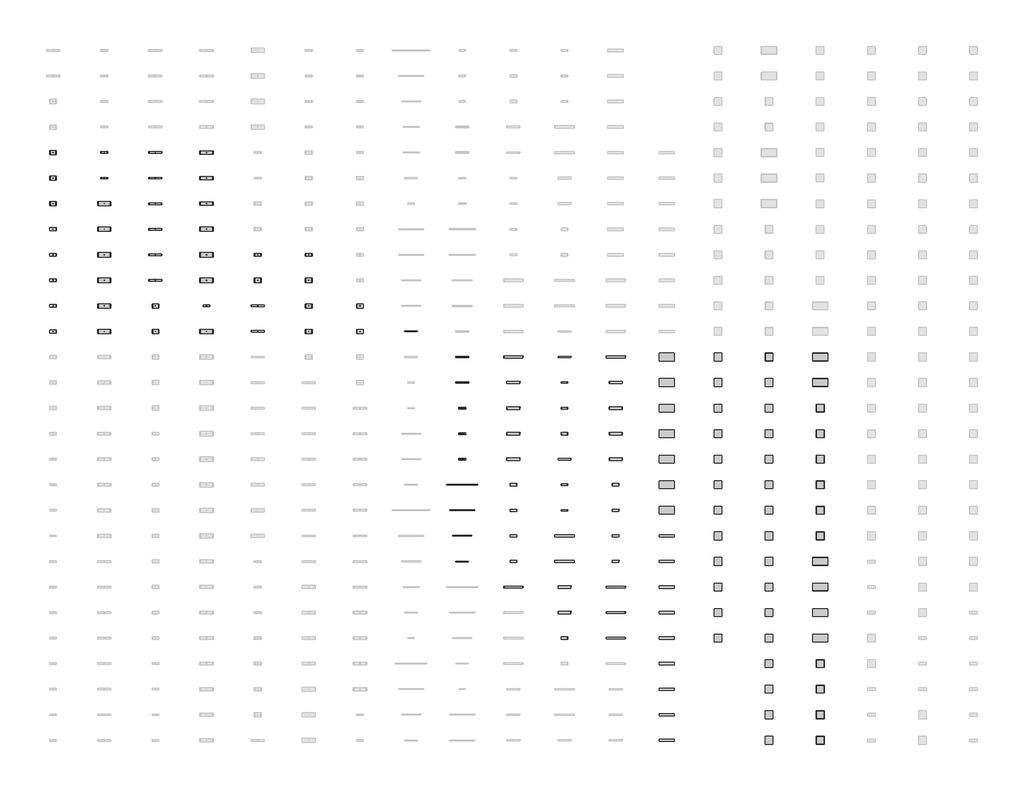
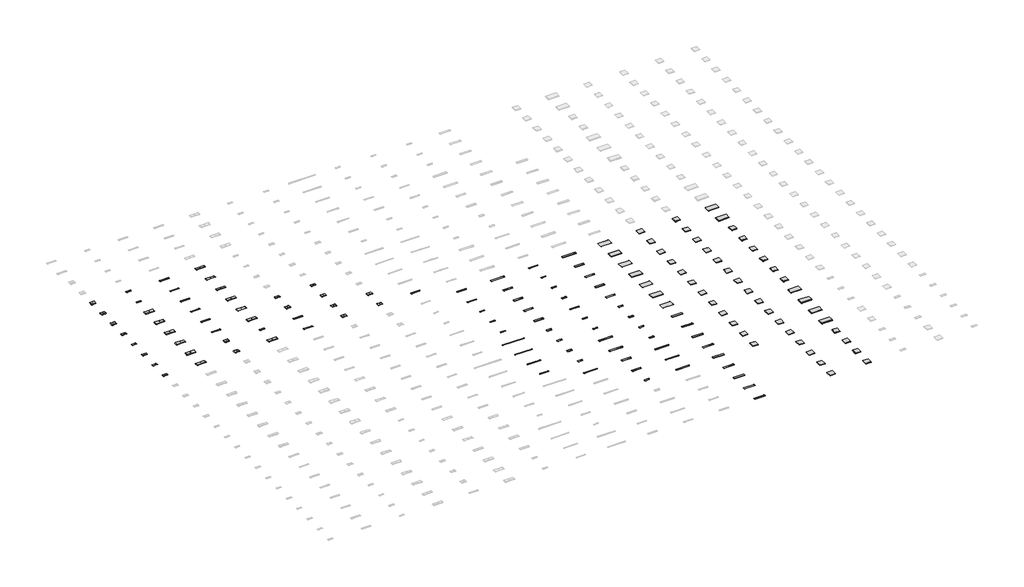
# One storey, part 2 of 7: 146 light fixtures.
"""IFC4 building model written with IfcOpenShell, lengths in millimetres."""

from ifc_helpers import new_model, si_unit, origin, place, context, project, spatial, transform, mapped, element, save
from components import light_fixture_92eabb3a, light_fixture_25df60ce, light_fixture_055937f4, light_fixture_121728c5, light_fixture_e398c37d, light_fixture_b94f0c3b, light_fixture_c778b539, light_fixture_ddc3e724, light_fixture_fd2b8f3f, light_fixture_c53e545b, light_fixture_f0c51d83, light_fixture_dffcc7fd, light_fixture_4d4a466d, light_fixture_e242d498, light_fixture_e2a95042, light_fixture_01780e7a, light_fixture_13f974ab, light_fixture_4871c609, light_fixture_df0576ea, light_fixture_4e9e6f2b, light_fixture_70e44551, light_fixture_14155fe5, light_fixture_35556cd1, light_fixture_7213bc0d, light_fixture_fca84b41, light_fixture_ab52292d, light_fixture_a868d494, light_fixture_4e222f7b, light_fixture_24b21b9c, light_fixture_98d0d098, light_fixture_b73f29e1

model = new_model("IFC4")

# Units and contexts
model_context = context("Model", 3, world=origin())
ifc_project = project(units=[si_unit("LENGTHUNIT", "METRE", prefix="MILLI")], contexts=[model_context])

# Site, building, storey
site = spatial("IfcSite", under=ifc_project)
building = spatial("IfcBuilding", under=site)
storey = spatial("IfcBuildingStorey", under=building, Name="Уровень 1", Elevation=0.0)

# Light fixtures
placement = place(None, origin())
light_fixture_shape = light_fixture_92eabb3a(model_context)
element("IfcLightFixture", 1, ObjectType="GENILED_Светильник светодиодный_Line Alum Standart : Line Alum Standart 980x50x50 40Вт Опал", at=placement, inside=storey, context=model_context, shape_type="MappedRepresentation", body=[
    mapped(light_fixture_shape, transform((28000.0, 32000.0, 0.0), x_axis=(1.0, 0.0, 0.0), y_axis=(0.0, 1.0, 0.0), z_axis=(0.0, 0.0, 1.0))),
])
light_fixture_2_shape = light_fixture_25df60ce(model_context)
element("IfcLightFixture", 2, ObjectType="GENILED_Светильник светодиодный_Line Standart : Line Standart 980x40x50 20Вт 90Ra Опал", at=placement, inside=storey, context=model_context, shape_type="MappedRepresentation", body=[
    mapped(light_fixture_2_shape, transform((32000.0, 14000.0, 0.0), x_axis=(1.0, 0.0, 0.0), y_axis=(0.0, 1.0, 0.0), z_axis=(0.0, 0.0, 1.0))),
])
light_fixture_3_shape = light_fixture_055937f4(model_context)
element("IfcLightFixture", 3, ObjectType="GENILED_Светильник светодиодный_Line Standart : Line Standart 1472x40x50 30Вт 90Ra Опал", at=placement, inside=storey, context=model_context, shape_type="MappedRepresentation", body=[
    mapped(light_fixture_3_shape, transform((32000.0, 16000.0, 0.0), x_axis=(1.0, 0.0, 0.0), y_axis=(0.0, 1.0, 0.0), z_axis=(0.0, 0.0, 1.0))),
])
light_fixture_4_shape = light_fixture_121728c5(model_context)
element("IfcLightFixture", 4, ObjectType="GENILED_Светильник светодиодный_Line Standart : Line Standart 1962x40x50 40Вт 90Ra Опал", at=placement, inside=storey, context=model_context, shape_type="MappedRepresentation", body=[
    mapped(light_fixture_4_shape, transform((32000.0, 18000.0, 0.0), x_axis=(1.0, 0.0, 0.0), y_axis=(0.0, 1.0, 0.0), z_axis=(0.0, 0.0, 1.0))),
])
light_fixture_5_shape = light_fixture_e398c37d(model_context)
element("IfcLightFixture", 5, ObjectType="GENILED_Светильник светодиодный_Line Standart : Line Standart 2450x40x50 50Вт 90Ra Опал", at=placement, inside=storey, context=model_context, shape_type="MappedRepresentation", body=[
    mapped(light_fixture_5_shape, transform((32000.0, 20000.0, 0.0), x_axis=(1.0, 0.0, 0.0), y_axis=(0.0, 1.0, 0.0), z_axis=(0.0, 0.0, 1.0))),
])
light_fixture_6_shape = light_fixture_b94f0c3b(model_context)
element("IfcLightFixture", 6, ObjectType="GENILED_Светильник светодиодный_Retail Advanced : Retail Advanced 535x105x25 20Вт Опал", at=placement, inside=storey, context=model_context, shape_type="MappedRepresentation", body=[
    mapped(light_fixture_6_shape, transform((32000.0, 22000.0, 0.0), x_axis=(1.0, 0.0, 0.0), y_axis=(0.0, 1.0, 0.0), z_axis=(0.0, 0.0, 1.0))),
])
element("IfcLightFixture", 7, ObjectType="GENILED_Светильник светодиодный_Retail Advanced : Retail Advanced 535x105x25 30Вт Опал", at=placement, inside=storey, context=model_context, shape_type="MappedRepresentation", body=[
    mapped(light_fixture_6_shape, transform((32000.0, 24000.0, 0.0), x_axis=(1.0, 0.0, 0.0), y_axis=(0.0, 1.0, 0.0), z_axis=(0.0, 0.0, 1.0))),
])
element("IfcLightFixture", 8, ObjectType="GENILED_Светильник светодиодный_Retail Advanced : Retail Advanced 535x105x25 20Вт Линза Ш", at=placement, inside=storey, context=model_context, shape_type="MappedRepresentation", body=[
    mapped(light_fixture_6_shape, transform((32000.0, 26000.0, 0.0), x_axis=(1.0, 0.0, 0.0), y_axis=(0.0, 1.0, 0.0), z_axis=(0.0, 0.0, 1.0))),
])
light_fixture_7_shape = light_fixture_c778b539(model_context)
element("IfcLightFixture", 9, ObjectType="GENILED_Светильник светодиодный_Retail Advanced : Retail Advanced 1034x105x25 40Вт Опал", at=placement, inside=storey, context=model_context, shape_type="MappedRepresentation", body=[
    mapped(light_fixture_7_shape, transform((32000.0, 28000.0, 0.0), x_axis=(1.0, 0.0, 0.0), y_axis=(0.0, 1.0, 0.0), z_axis=(0.0, 0.0, 1.0))),
])
element("IfcLightFixture", 10, ObjectType="GENILED_Светильник светодиодный_Retail Advanced : Retail Advanced 1034x105x25 60Вт Опал", at=placement, inside=storey, context=model_context, shape_type="MappedRepresentation", body=[
    mapped(light_fixture_7_shape, transform((32000.0, 30000.0, 0.0), x_axis=(1.0, 0.0, 0.0), y_axis=(0.0, 1.0, 0.0), z_axis=(0.0, 0.0, 1.0))),
])
light_fixture_8_shape = light_fixture_ddc3e724(model_context)
element("IfcLightFixture", 11, ObjectType="GENILED_Светильник светодиодный_Titan Advanced : Titan Advanced 1500x100x30 90Вт IP66 Матовое закаленное стекло", at=placement, inside=storey, context=model_context, shape_type="MappedRepresentation", body=[
    mapped(light_fixture_8_shape, transform((36000.0, 12000.0, 0.0), x_axis=(1.0, 0.0, 0.0), y_axis=(0.0, 1.0, 0.0), z_axis=(0.0, 0.0, 1.0))),
])
light_fixture_9_shape = light_fixture_fd2b8f3f(model_context)
element("IfcLightFixture", 12, ObjectType="GENILED_Светильник светодиодный_Titan Advanced : Titan Advanced 500x180x25 40Вт IP66 Опал", at=placement, inside=storey, context=model_context, shape_type="MappedRepresentation", body=[
    mapped(light_fixture_9_shape, transform((36000.0, 14000.0, 0.0), x_axis=(1.0, 0.0, 0.0), y_axis=(0.0, 1.0, 0.0), z_axis=(0.0, 0.0, 1.0))),
])
light_fixture_10_shape = light_fixture_c53e545b(model_context)
element("IfcLightFixture", 13, ObjectType="GENILED_Светильник светодиодный_Titan Advanced : Titan Advanced 500x180x30 40Вт IP66 Матовое закаленное стекло", at=placement, inside=storey, context=model_context, shape_type="MappedRepresentation", body=[
    mapped(light_fixture_10_shape, transform((36000.0, 16000.0, 0.0), x_axis=(1.0, 0.0, 0.0), y_axis=(0.0, 1.0, 0.0), z_axis=(0.0, 0.0, 1.0))),
])
element("IfcLightFixture", 14, ObjectType="GENILED_Светильник светодиодный_Titan Advanced : Titan Advanced 500x180x25 50Вт IP66 Опал", at=placement, inside=storey, context=model_context, shape_type="MappedRepresentation", body=[
    mapped(light_fixture_9_shape, transform((36000.0, 18000.0, 0.0), x_axis=(1.0, 0.0, 0.0), y_axis=(0.0, 1.0, 0.0), z_axis=(0.0, 0.0, 1.0))),
])
element("IfcLightFixture", 15, ObjectType="GENILED_Светильник светодиодный_Titan Advanced : Titan Advanced 500x180x30 50Вт IP66 Матовое закаленное стекло", at=placement, inside=storey, context=model_context, shape_type="MappedRepresentation", body=[
    mapped(light_fixture_10_shape, transform((36000.0, 20000.0, 0.0), x_axis=(1.0, 0.0, 0.0), y_axis=(0.0, 1.0, 0.0), z_axis=(0.0, 0.0, 1.0))),
])
light_fixture_11_shape = light_fixture_f0c51d83(model_context)
element("IfcLightFixture", 16, ObjectType="GENILED_Светильник светодиодный_Titan Advanced : Titan Advanced 1000x180x25 80Вт IP66 Опал", at=placement, inside=storey, context=model_context, shape_type="MappedRepresentation", body=[
    mapped(light_fixture_11_shape, transform((36000.0, 22000.0, 0.0), x_axis=(1.0, 0.0, 0.0), y_axis=(0.0, 1.0, 0.0), z_axis=(0.0, 0.0, 1.0))),
])
light_fixture_12_shape = light_fixture_dffcc7fd(model_context)
element("IfcLightFixture", 17, ObjectType="GENILED_Светильник светодиодный_Titan Advanced : Titan Advanced 1000x180x30 80Вт IP66 Матовое закаленное стекло", at=placement, inside=storey, context=model_context, shape_type="MappedRepresentation", body=[
    mapped(light_fixture_12_shape, transform((36000.0, 24000.0, 0.0), x_axis=(1.0, 0.0, 0.0), y_axis=(0.0, 1.0, 0.0), z_axis=(0.0, 0.0, 1.0))),
])
element("IfcLightFixture", 18, ObjectType="GENILED_Светильник светодиодный_Titan Advanced : Titan Advanced 1000x180x25 100Вт IP66 Опал", at=placement, inside=storey, context=model_context, shape_type="MappedRepresentation", body=[
    mapped(light_fixture_11_shape, transform((36000.0, 26000.0, 0.0), x_axis=(1.0, 0.0, 0.0), y_axis=(0.0, 1.0, 0.0), z_axis=(0.0, 0.0, 1.0))),
])
element("IfcLightFixture", 19, ObjectType="GENILED_Светильник светодиодный_Titan Advanced : Titan Advanced 1000x180x30 100Вт IP66 Матовое закаленное стекло", at=placement, inside=storey, context=model_context, shape_type="MappedRepresentation", body=[
    mapped(light_fixture_12_shape, transform((36000.0, 28000.0, 0.0), x_axis=(1.0, 0.0, 0.0), y_axis=(0.0, 1.0, 0.0), z_axis=(0.0, 0.0, 1.0))),
])
light_fixture_13_shape = light_fixture_4d4a466d(model_context)
element("IfcLightFixture", 20, ObjectType="GENILED_Светильник светодиодный_Titan Advanced : Titan Advanced 1500x180x25 120Вт IP66 Опал", at=placement, inside=storey, context=model_context, shape_type="MappedRepresentation", body=[
    mapped(light_fixture_13_shape, transform((36000.0, 30000.0, 0.0), x_axis=(1.0, 0.0, 0.0), y_axis=(0.0, 1.0, 0.0), z_axis=(0.0, 0.0, 1.0))),
])
element("IfcLightFixture", 21, ObjectType="GENILED_Светильник светодиодный_Titan Inox Advanced : Titan Inox Advanced 500x180x30 50Вт IP66 Матовое закаленное стекло", at=placement, inside=storey, context=model_context, shape_type="MappedRepresentation", body=[
    mapped(light_fixture_10_shape, transform((40000.0, 8000.0, 0.0), x_axis=(1.0, 0.0, 0.0), y_axis=(0.0, 1.0, 0.0), z_axis=(0.0, 0.0, 1.0))),
])
element("IfcLightFixture", 22, ObjectType="GENILED_Светильник светодиодный_Titan Inox Advanced : Titan Inox Advanced 1000x180x30 80Вт IP66 Матовое закаленное стекло", at=placement, inside=storey, context=model_context, shape_type="MappedRepresentation", body=[
    mapped(light_fixture_12_shape, transform((40000.0, 10000.0, 0.0), x_axis=(1.0, 0.0, 0.0), y_axis=(0.0, 1.0, 0.0), z_axis=(0.0, 0.0, 1.0))),
])
element("IfcLightFixture", 23, ObjectType="GENILED_Светильник светодиодный_Titan Inox Advanced : Titan Inox Advanced 1000x180x30 100Вт IP66 Матовое закаленное стекло", at=placement, inside=storey, context=model_context, shape_type="MappedRepresentation", body=[
    mapped(light_fixture_12_shape, transform((40000.0, 12000.0, 0.0), x_axis=(1.0, 0.0, 0.0), y_axis=(0.0, 1.0, 0.0), z_axis=(0.0, 0.0, 1.0))),
])
light_fixture_14_shape = light_fixture_e242d498(model_context)
element("IfcLightFixture", 24, ObjectType="GENILED_Светильник светодиодный_Titan Inox Advanced : Titan Inox Advanced 1500x180x30 120Вт IP66 Матовое закаленное стекло", at=placement, inside=storey, context=model_context, shape_type="MappedRepresentation", body=[
    mapped(light_fixture_14_shape, transform((40000.0, 14000.0, 0.0), x_axis=(1.0, 0.0, 0.0), y_axis=(0.0, 1.0, 0.0), z_axis=(0.0, 0.0, 1.0))),
])
element("IfcLightFixture", 25, ObjectType="GENILED_Светильник светодиодный_Titan Inox Advanced : Titan Inox Advanced 1500x180x30 150Вт IP66 Матовое закаленное стекло", at=placement, inside=storey, context=model_context, shape_type="MappedRepresentation", body=[
    mapped(light_fixture_14_shape, transform((40000.0, 16000.0, 0.0), x_axis=(1.0, 0.0, 0.0), y_axis=(0.0, 1.0, 0.0), z_axis=(0.0, 0.0, 1.0))),
])
light_fixture_15_shape = light_fixture_e2a95042(model_context)
element("IfcLightFixture", 26, ObjectType="GENILED_Светильник светодиодный_Titan Inox Basic : Titan Inox Basic 500x100x30 20Вт IP66 Матовое закаленное стекло", at=placement, inside=storey, context=model_context, shape_type="MappedRepresentation", body=[
    mapped(light_fixture_15_shape, transform((40000.0, 18000.0, 0.0), x_axis=(1.0, 0.0, 0.0), y_axis=(0.0, 1.0, 0.0), z_axis=(0.0, 0.0, 1.0))),
])
element("IfcLightFixture", 27, ObjectType="GENILED_Светильник светодиодный_Titan Inox Basic : Titan Inox Basic 500x100x30 30Вт IP66 Матовое закаленное стекло", at=placement, inside=storey, context=model_context, shape_type="MappedRepresentation", body=[
    mapped(light_fixture_15_shape, transform((40000.0, 20000.0, 0.0), x_axis=(1.0, 0.0, 0.0), y_axis=(0.0, 1.0, 0.0), z_axis=(0.0, 0.0, 1.0))),
])
light_fixture_16_shape = light_fixture_01780e7a(model_context)
element("IfcLightFixture", 28, ObjectType="GENILED_Светильник светодиодный_Titan Inox Basic : Titan Inox Basic 1000x100x30 40Вт IP66 Матовое закаленное стекло", at=placement, inside=storey, context=model_context, shape_type="MappedRepresentation", body=[
    mapped(light_fixture_16_shape, transform((40000.0, 22000.0, 0.0), x_axis=(1.0, 0.0, 0.0), y_axis=(0.0, 1.0, 0.0), z_axis=(0.0, 0.0, 1.0))),
])
element("IfcLightFixture", 29, ObjectType="GENILED_Светильник светодиодный_Titan Inox Basic : Titan Inox Basic 500x180x30 40Вт IP66 Матовое закаленное стекло", at=placement, inside=storey, context=model_context, shape_type="MappedRepresentation", body=[
    mapped(light_fixture_10_shape, transform((40000.0, 24000.0, 0.0), x_axis=(1.0, 0.0, 0.0), y_axis=(0.0, 1.0, 0.0), z_axis=(0.0, 0.0, 1.0))),
])
element("IfcLightFixture", 30, ObjectType="GENILED_Светильник светодиодный_Titan Inox Standart : Titan Inox Standart 500х100х30 20Вт IP66 Матовое закаленное стекло", at=placement, inside=storey, context=model_context, shape_type="MappedRepresentation", body=[
    mapped(light_fixture_15_shape, transform((40000.0, 26000.0, 0.0), x_axis=(1.0, 0.0, 0.0), y_axis=(0.0, 1.0, 0.0), z_axis=(0.0, 0.0, 1.0))),
])
element("IfcLightFixture", 31, ObjectType="GENILED_Светильник светодиодный_Titan Inox Standart : Titan Inox Standart 500х100х30 30Вт IP66 Матовое закаленное стекло", at=placement, inside=storey, context=model_context, shape_type="MappedRepresentation", body=[
    mapped(light_fixture_15_shape, transform((40000.0, 28000.0, 0.0), x_axis=(1.0, 0.0, 0.0), y_axis=(0.0, 1.0, 0.0), z_axis=(0.0, 0.0, 1.0))),
])
element("IfcLightFixture", 32, ObjectType="GENILED_Светильник светодиодный_Titan Inox Standart : Titan Inox Standart 1000х100х30 40Вт IP66 Матовое закаленное стекло", at=placement, inside=storey, context=model_context, shape_type="MappedRepresentation", body=[
    mapped(light_fixture_16_shape, transform((40000.0, 30000.0, 0.0), x_axis=(1.0, 0.0, 0.0), y_axis=(0.0, 1.0, 0.0), z_axis=(0.0, 0.0, 1.0))),
])
element("IfcLightFixture", 33, ObjectType="GENILED_Светильник светодиодный_Titan Standart : Titan Standart 1500x100x30 60Вт IP66 Матовое закаленное стекло", at=placement, inside=storey, context=model_context, shape_type="MappedRepresentation", body=[
    mapped(light_fixture_8_shape, transform((44000.0, 8000.0, 0.0), x_axis=(1.0, 0.0, 0.0), y_axis=(0.0, 1.0, 0.0), z_axis=(0.0, 0.0, 1.0))),
])
light_fixture_17_shape = light_fixture_13f974ab(model_context)
element("IfcLightFixture", 34, ObjectType="GENILED_Светильник светодиодный_Titan Standart : Titan Standart 1500x100x25 90Вт IP66 Опал", at=placement, inside=storey, context=model_context, shape_type="MappedRepresentation", body=[
    mapped(light_fixture_17_shape, transform((44000.0, 10000.0, 0.0), x_axis=(1.0, 0.0, 0.0), y_axis=(0.0, 1.0, 0.0), z_axis=(0.0, 0.0, 1.0))),
])
element("IfcLightFixture", 35, ObjectType="GENILED_Светильник светодиодный_Titan Standart : Titan Standart 1500x100x30 90Вт IP66 Матовое закаленное стекло", at=placement, inside=storey, context=model_context, shape_type="MappedRepresentation", body=[
    mapped(light_fixture_8_shape, transform((44000.0, 12000.0, 0.0), x_axis=(1.0, 0.0, 0.0), y_axis=(0.0, 1.0, 0.0), z_axis=(0.0, 0.0, 1.0))),
])
element("IfcLightFixture", 36, ObjectType="GENILED_Светильник светодиодный_Titan Standart : Titan Standart 500x180x25 40Вт IP66 Опал", at=placement, inside=storey, context=model_context, shape_type="MappedRepresentation", body=[
    mapped(light_fixture_9_shape, transform((44000.0, 14000.0, 0.0), x_axis=(1.0, 0.0, 0.0), y_axis=(0.0, 1.0, 0.0), z_axis=(0.0, 0.0, 1.0))),
])
element("IfcLightFixture", 37, ObjectType="GENILED_Светильник светодиодный_Titan Standart : Titan Standart 500x180x30 40Вт IP66 Матовое закаленное стекло", at=placement, inside=storey, context=model_context, shape_type="MappedRepresentation", body=[
    mapped(light_fixture_10_shape, transform((44000.0, 16000.0, 0.0), x_axis=(1.0, 0.0, 0.0), y_axis=(0.0, 1.0, 0.0), z_axis=(0.0, 0.0, 1.0))),
])
element("IfcLightFixture", 38, ObjectType="GENILED_Светильник светодиодный_Titan Standart : Titan Standart 500x180x25 50Вт IP66 Опал", at=placement, inside=storey, context=model_context, shape_type="MappedRepresentation", body=[
    mapped(light_fixture_9_shape, transform((44000.0, 18000.0, 0.0), x_axis=(1.0, 0.0, 0.0), y_axis=(0.0, 1.0, 0.0), z_axis=(0.0, 0.0, 1.0))),
])
element("IfcLightFixture", 39, ObjectType="GENILED_Светильник светодиодный_Titan Standart : Titan Standart 500x180x30 50Вт IP66 Матовое закаленное стекло", at=placement, inside=storey, context=model_context, shape_type="MappedRepresentation", body=[
    mapped(light_fixture_10_shape, transform((44000.0, 20000.0, 0.0), x_axis=(1.0, 0.0, 0.0), y_axis=(0.0, 1.0, 0.0), z_axis=(0.0, 0.0, 1.0))),
])
element("IfcLightFixture", 40, ObjectType="GENILED_Светильник светодиодный_Titan Standart : Titan Standart 1000x180x25 80Вт IP66 Опал", at=placement, inside=storey, context=model_context, shape_type="MappedRepresentation", body=[
    mapped(light_fixture_11_shape, transform((44000.0, 22000.0, 0.0), x_axis=(1.0, 0.0, 0.0), y_axis=(0.0, 1.0, 0.0), z_axis=(0.0, 0.0, 1.0))),
])
element("IfcLightFixture", 41, ObjectType="GENILED_Светильник светодиодный_Titan Standart : Titan Standart 1000x180x30 80Вт IP66 Матовое закаленное стекло", at=placement, inside=storey, context=model_context, shape_type="MappedRepresentation", body=[
    mapped(light_fixture_12_shape, transform((44000.0, 24000.0, 0.0), x_axis=(1.0, 0.0, 0.0), y_axis=(0.0, 1.0, 0.0), z_axis=(0.0, 0.0, 1.0))),
])
element("IfcLightFixture", 42, ObjectType="GENILED_Светильник светодиодный_Titan Standart : Titan Standart 1000x180x25 100Вт IP66 Опал", at=placement, inside=storey, context=model_context, shape_type="MappedRepresentation", body=[
    mapped(light_fixture_11_shape, transform((44000.0, 26000.0, 0.0), x_axis=(1.0, 0.0, 0.0), y_axis=(0.0, 1.0, 0.0), z_axis=(0.0, 0.0, 1.0))),
])
element("IfcLightFixture", 43, ObjectType="GENILED_Светильник светодиодный_Titan Standart : Titan Standart 1000x180x30 100Вт IP66 Матовое закаленное стекло", at=placement, inside=storey, context=model_context, shape_type="MappedRepresentation", body=[
    mapped(light_fixture_12_shape, transform((44000.0, 28000.0, 0.0), x_axis=(1.0, 0.0, 0.0), y_axis=(0.0, 1.0, 0.0), z_axis=(0.0, 0.0, 1.0))),
])
element("IfcLightFixture", 44, ObjectType="GENILED_Светильник светодиодный_Titan Standart : Titan Standart 1500x180x25 120Вт IP66 Опал", at=placement, inside=storey, context=model_context, shape_type="MappedRepresentation", body=[
    mapped(light_fixture_13_shape, transform((44000.0, 30000.0, 0.0), x_axis=(1.0, 0.0, 0.0), y_axis=(0.0, 1.0, 0.0), z_axis=(0.0, 0.0, 1.0))),
])
light_fixture_18_shape = light_fixture_4871c609(model_context)
element("IfcLightFixture", 45, ObjectType="GENILED_Светильник светодиодный_ЛПО Низковольтный : ЛПО 1200x180x20 80Вт 24В Опал", at=placement, inside=storey, context=model_context, shape_type="MappedRepresentation", body=[
    mapped(light_fixture_18_shape, transform((48000.0, 0.0, 0.0), x_axis=(1.0, 0.0, 0.0), y_axis=(0.0, 1.0, 0.0), z_axis=(0.0, 0.0, 1.0))),
])
light_fixture_19_shape = light_fixture_df0576ea(model_context)
element("IfcLightFixture", 46, ObjectType="GENILED_Светильник светодиодный_ЛПО Низковольтный : ЛПО 1200x180x40 40Вт 12В Опал", at=placement, inside=storey, context=model_context, shape_type="MappedRepresentation", body=[
    mapped(light_fixture_19_shape, transform((48000.0, 2000.0, 0.0), x_axis=(1.0, 0.0, 0.0), y_axis=(0.0, 1.0, 0.0), z_axis=(0.0, 0.0, 1.0))),
])
element("IfcLightFixture", 47, ObjectType="GENILED_Светильник светодиодный_ЛПО Низковольтный : ЛПО 1200x180x40 40Вт 24В Опал", at=placement, inside=storey, context=model_context, shape_type="MappedRepresentation", body=[
    mapped(light_fixture_19_shape, transform((48000.0, 4000.0, 0.0), x_axis=(1.0, 0.0, 0.0), y_axis=(0.0, 1.0, 0.0), z_axis=(0.0, 0.0, 1.0))),
])
element("IfcLightFixture", 48, ObjectType="GENILED_Светильник светодиодный_ЛПО Низковольтный : ЛПО 1200x180x40 50Вт 12В Опал", at=placement, inside=storey, context=model_context, shape_type="MappedRepresentation", body=[
    mapped(light_fixture_19_shape, transform((48000.0, 6000.0, 0.0), x_axis=(1.0, 0.0, 0.0), y_axis=(0.0, 1.0, 0.0), z_axis=(0.0, 0.0, 1.0))),
])
element("IfcLightFixture", 49, ObjectType="GENILED_Светильник светодиодный_ЛПО Низковольтный : ЛПО 1200x180x40 60Вт 12В Опал", at=placement, inside=storey, context=model_context, shape_type="MappedRepresentation", body=[
    mapped(light_fixture_19_shape, transform((48000.0, 8000.0, 0.0), x_axis=(1.0, 0.0, 0.0), y_axis=(0.0, 1.0, 0.0), z_axis=(0.0, 0.0, 1.0))),
])
element("IfcLightFixture", 50, ObjectType="GENILED_Светильник светодиодный_ЛПО Низковольтный : ЛПО 1200x180x40 60Вт 24В Опал", at=placement, inside=storey, context=model_context, shape_type="MappedRepresentation", body=[
    mapped(light_fixture_19_shape, transform((48000.0, 10000.0, 0.0), x_axis=(1.0, 0.0, 0.0), y_axis=(0.0, 1.0, 0.0), z_axis=(0.0, 0.0, 1.0))),
])
element("IfcLightFixture", 51, ObjectType="GENILED_Светильник светодиодный_ЛПО Низковольтный : ЛПО 1200x180x40 60Вт 36В Опал", at=placement, inside=storey, context=model_context, shape_type="MappedRepresentation", body=[
    mapped(light_fixture_19_shape, transform((48000.0, 12000.0, 0.0), x_axis=(1.0, 0.0, 0.0), y_axis=(0.0, 1.0, 0.0), z_axis=(0.0, 0.0, 1.0))),
])
element("IfcLightFixture", 52, ObjectType="GENILED_Светильник светодиодный_ЛПО Низковольтный : ЛПО 1200x180x40 80Вт 12В Опал", at=placement, inside=storey, context=model_context, shape_type="MappedRepresentation", body=[
    mapped(light_fixture_19_shape, transform((48000.0, 14000.0, 0.0), x_axis=(1.0, 0.0, 0.0), y_axis=(0.0, 1.0, 0.0), z_axis=(0.0, 0.0, 1.0))),
])
element("IfcLightFixture", 53, ObjectType="GENILED_Светильник светодиодный_ЛПО Низковольтный : ЛПО 1200x180x40 80Вт 24В Опал", at=placement, inside=storey, context=model_context, shape_type="MappedRepresentation", body=[
    mapped(light_fixture_19_shape, transform((48000.0, 16000.0, 0.0), x_axis=(1.0, 0.0, 0.0), y_axis=(0.0, 1.0, 0.0), z_axis=(0.0, 0.0, 1.0))),
])
light_fixture_20_shape = light_fixture_4e9e6f2b(model_context)
element("IfcLightFixture", 54, ObjectType="GENILED_Светильник светодиодный_ЛПО Низковольтный : ЛПО 1200x600x20 60Вт 12В Опал", at=placement, inside=storey, context=model_context, shape_type="MappedRepresentation", body=[
    mapped(light_fixture_20_shape, transform((48000.0, 18000.0, 0.0), x_axis=(1.0, 0.0, 0.0), y_axis=(0.0, 1.0, 0.0), z_axis=(0.0, 0.0, 1.0))),
])
element("IfcLightFixture", 55, ObjectType="GENILED_Светильник светодиодный_ЛПО Низковольтный : ЛПО 1200x600x20 60Вт 24В Опал", at=placement, inside=storey, context=model_context, shape_type="MappedRepresentation", body=[
    mapped(light_fixture_20_shape, transform((48000.0, 20000.0, 0.0), x_axis=(1.0, 0.0, 0.0), y_axis=(0.0, 1.0, 0.0), z_axis=(0.0, 0.0, 1.0))),
])
element("IfcLightFixture", 56, ObjectType="GENILED_Светильник светодиодный_ЛПО Низковольтный : ЛПО 1200x600x20 60Вт 36В Опал", at=placement, inside=storey, context=model_context, shape_type="MappedRepresentation", body=[
    mapped(light_fixture_20_shape, transform((48000.0, 22000.0, 0.0), x_axis=(1.0, 0.0, 0.0), y_axis=(0.0, 1.0, 0.0), z_axis=(0.0, 0.0, 1.0))),
])
element("IfcLightFixture", 57, ObjectType="GENILED_Светильник светодиодный_ЛПО Низковольтный : ЛПО 1200x600x20 80Вт 12В Опал", at=placement, inside=storey, context=model_context, shape_type="MappedRepresentation", body=[
    mapped(light_fixture_20_shape, transform((48000.0, 24000.0, 0.0), x_axis=(1.0, 0.0, 0.0), y_axis=(0.0, 1.0, 0.0), z_axis=(0.0, 0.0, 1.0))),
])
element("IfcLightFixture", 58, ObjectType="GENILED_Светильник светодиодный_ЛПО Низковольтный : ЛПО 1200x600x20 80Вт 24В Опал", at=placement, inside=storey, context=model_context, shape_type="MappedRepresentation", body=[
    mapped(light_fixture_20_shape, transform((48000.0, 26000.0, 0.0), x_axis=(1.0, 0.0, 0.0), y_axis=(0.0, 1.0, 0.0), z_axis=(0.0, 0.0, 1.0))),
])
element("IfcLightFixture", 59, ObjectType="GENILED_Светильник светодиодный_ЛПО Низковольтный : ЛПО 1200x600x20 100Вт 12В Опал", at=placement, inside=storey, context=model_context, shape_type="MappedRepresentation", body=[
    mapped(light_fixture_20_shape, transform((48000.0, 28000.0, 0.0), x_axis=(1.0, 0.0, 0.0), y_axis=(0.0, 1.0, 0.0), z_axis=(0.0, 0.0, 1.0))),
])
element("IfcLightFixture", 60, ObjectType="GENILED_Светильник светодиодный_ЛПО Низковольтный : ЛПО 1200x600x20 100Вт 24В Опал", at=placement, inside=storey, context=model_context, shape_type="MappedRepresentation", body=[
    mapped(light_fixture_20_shape, transform((48000.0, 30000.0, 0.0), x_axis=(1.0, 0.0, 0.0), y_axis=(0.0, 1.0, 0.0), z_axis=(0.0, 0.0, 1.0))),
])
light_fixture_21_shape = light_fixture_70e44551(model_context)
element("IfcLightFixture", 61, ObjectType="GENILED_Светильник светодиодный_Office Clip-In Advanced : Office Clip-In Advanced 600x600x60 30Вт IP54 Матовое закаленное стекло", at=placement, inside=storey, context=model_context, shape_type="MappedRepresentation", body=[
    mapped(light_fixture_21_shape, transform((52000.0, 8000.0, 0.0), x_axis=(1.0, 0.0, 0.0), y_axis=(0.0, 1.0, 0.0), z_axis=(0.0, 0.0, 1.0))),
])
element("IfcLightFixture", 62, ObjectType="GENILED_Светильник светодиодный_Office Clip-In Advanced : Office Clip-In Advanced 600x600x60 40Вт IP54 Матовое закаленное стекло", at=placement, inside=storey, context=model_context, shape_type="MappedRepresentation", body=[
    mapped(light_fixture_21_shape, transform((52000.0, 10000.0, 0.0), x_axis=(1.0, 0.0, 0.0), y_axis=(0.0, 1.0, 0.0), z_axis=(0.0, 0.0, 1.0))),
])
element("IfcLightFixture", 63, ObjectType="GENILED_Светильник светодиодный_Office Clip-In Advanced : Office Clip-In Advanced 600x600x60 50Вт IP54 Матовое закаленное стекло", at=placement, inside=storey, context=model_context, shape_type="MappedRepresentation", body=[
    mapped(light_fixture_21_shape, transform((52000.0, 12000.0, 0.0), x_axis=(1.0, 0.0, 0.0), y_axis=(0.0, 1.0, 0.0), z_axis=(0.0, 0.0, 1.0))),
])
element("IfcLightFixture", 64, ObjectType="GENILED_Светильник светодиодный_Office Clip-In Advanced : Office Clip-In Advanced 600x600x60 60Вт IP54 Матовое закаленное стекло", at=placement, inside=storey, context=model_context, shape_type="MappedRepresentation", body=[
    mapped(light_fixture_21_shape, transform((52000.0, 14000.0, 0.0), x_axis=(1.0, 0.0, 0.0), y_axis=(0.0, 1.0, 0.0), z_axis=(0.0, 0.0, 1.0))),
])
element("IfcLightFixture", 65, ObjectType="GENILED_Светильник светодиодный_Office Clip-In Advanced : Office Clip-In Advanced 600x600x60 80Вт IP54 Матовое закаленное стекло", at=placement, inside=storey, context=model_context, shape_type="MappedRepresentation", body=[
    mapped(light_fixture_21_shape, transform((52000.0, 16000.0, 0.0), x_axis=(1.0, 0.0, 0.0), y_axis=(0.0, 1.0, 0.0), z_axis=(0.0, 0.0, 1.0))),
])
element("IfcLightFixture", 66, ObjectType="GENILED_Светильник светодиодный_Office Clip-In Advanced : Office Clip-In Advanced 600x600x60 100Вт IP54 Матовое закаленное стекло", at=placement, inside=storey, context=model_context, shape_type="MappedRepresentation", body=[
    mapped(light_fixture_21_shape, transform((52000.0, 18000.0, 0.0), x_axis=(1.0, 0.0, 0.0), y_axis=(0.0, 1.0, 0.0), z_axis=(0.0, 0.0, 1.0))),
])
element("IfcLightFixture", 67, ObjectType="GENILED_Светильник светодиодный_Office Clip-In Advanced : Office Clip-In Advanced 600x600x60 30Вт Матовое закаленное стекло", at=placement, inside=storey, context=model_context, shape_type="MappedRepresentation", body=[
    mapped(light_fixture_21_shape, transform((52000.0, 20000.0, 0.0), x_axis=(1.0, 0.0, 0.0), y_axis=(0.0, 1.0, 0.0), z_axis=(0.0, 0.0, 1.0))),
])
element("IfcLightFixture", 68, ObjectType="GENILED_Светильник светодиодный_Office Clip-In Advanced : Office Clip-In Advanced 600x600x60 40Вт Матовое закаленное стекло", at=placement, inside=storey, context=model_context, shape_type="MappedRepresentation", body=[
    mapped(light_fixture_21_shape, transform((52000.0, 22000.0, 0.0), x_axis=(1.0, 0.0, 0.0), y_axis=(0.0, 1.0, 0.0), z_axis=(0.0, 0.0, 1.0))),
])
element("IfcLightFixture", 69, ObjectType="GENILED_Светильник светодиодный_Office Clip-In Advanced : Office Clip-In Advanced 600x600x60 50Вт Матовое закаленное стекло", at=placement, inside=storey, context=model_context, shape_type="MappedRepresentation", body=[
    mapped(light_fixture_21_shape, transform((52000.0, 24000.0, 0.0), x_axis=(1.0, 0.0, 0.0), y_axis=(0.0, 1.0, 0.0), z_axis=(0.0, 0.0, 1.0))),
])
element("IfcLightFixture", 70, ObjectType="GENILED_Светильник светодиодный_Office Clip-In Advanced : Office Clip-In Advanced 600x600x60 60Вт Матовое закаленное стекло", at=placement, inside=storey, context=model_context, shape_type="MappedRepresentation", body=[
    mapped(light_fixture_21_shape, transform((52000.0, 26000.0, 0.0), x_axis=(1.0, 0.0, 0.0), y_axis=(0.0, 1.0, 0.0), z_axis=(0.0, 0.0, 1.0))),
])
element("IfcLightFixture", 71, ObjectType="GENILED_Светильник светодиодный_Office Clip-In Advanced : Office Clip-In Advanced 600x600x60 80Вт Матовое закаленное стекло", at=placement, inside=storey, context=model_context, shape_type="MappedRepresentation", body=[
    mapped(light_fixture_21_shape, transform((52000.0, 28000.0, 0.0), x_axis=(1.0, 0.0, 0.0), y_axis=(0.0, 1.0, 0.0), z_axis=(0.0, 0.0, 1.0))),
])
element("IfcLightFixture", 72, ObjectType="GENILED_Светильник светодиодный_Office Clip-In Advanced : Office Clip-In Advanced 600x600x60 100Вт Матовое закаленное стекло", at=placement, inside=storey, context=model_context, shape_type="MappedRepresentation", body=[
    mapped(light_fixture_21_shape, transform((52000.0, 30000.0, 0.0), x_axis=(1.0, 0.0, 0.0), y_axis=(0.0, 1.0, 0.0), z_axis=(0.0, 0.0, 1.0))),
])
element("IfcLightFixture", 73, ObjectType="GENILED_Светильник светодиодный_Office Clip-In Standart : Office Clip-In Standart 600x600x60 60Вт Матовое закаленное стекло", at=placement, inside=storey, context=model_context, shape_type="MappedRepresentation", body=[
    mapped(light_fixture_21_shape, transform((56000.0, 0.0, 0.0), x_axis=(1.0, 0.0, 0.0), y_axis=(0.0, 1.0, 0.0), z_axis=(0.0, 0.0, 1.0))),
])
element("IfcLightFixture", 74, ObjectType="GENILED_Светильник светодиодный_Office Clip-In Standart : Office Clip-In Standart 600x600x60 80Вт Матовое закаленное стекло", at=placement, inside=storey, context=model_context, shape_type="MappedRepresentation", body=[
    mapped(light_fixture_21_shape, transform((56000.0, 2000.0, 0.0), x_axis=(1.0, 0.0, 0.0), y_axis=(0.0, 1.0, 0.0), z_axis=(0.0, 0.0, 1.0))),
])
element("IfcLightFixture", 75, ObjectType="GENILED_Светильник светодиодный_Office Clip-In Standart : Office Clip-In Standart 600x600x60 100Вт Матовое закаленное стекло", at=placement, inside=storey, context=model_context, shape_type="MappedRepresentation", body=[
    mapped(light_fixture_21_shape, transform((56000.0, 4000.0, 0.0), x_axis=(1.0, 0.0, 0.0), y_axis=(0.0, 1.0, 0.0), z_axis=(0.0, 0.0, 1.0))),
])
element("IfcLightFixture", 76, ObjectType="GENILED_Светильник светодиодный_Office Clip-In Standart : Office Clip-In Standart 600x600x60 30Вт 90Ra IP54 Опал", at=placement, inside=storey, context=model_context, shape_type="MappedRepresentation", body=[
    mapped(light_fixture_21_shape, transform((56000.0, 6000.0, 0.0), x_axis=(1.0, 0.0, 0.0), y_axis=(0.0, 1.0, 0.0), z_axis=(0.0, 0.0, 1.0))),
])
element("IfcLightFixture", 77, ObjectType="GENILED_Светильник светодиодный_Office Clip-In Standart : Office Clip-In Standart 600x600x60 40Вт 90Ra IP54 Опал", at=placement, inside=storey, context=model_context, shape_type="MappedRepresentation", body=[
    mapped(light_fixture_21_shape, transform((56000.0, 8000.0, 0.0), x_axis=(1.0, 0.0, 0.0), y_axis=(0.0, 1.0, 0.0), z_axis=(0.0, 0.0, 1.0))),
])
element("IfcLightFixture", 78, ObjectType="GENILED_Светильник светодиодный_Office Clip-In Standart : Office Clip-In Standart 600x600x60 50Вт 90Ra IP54 Опал", at=placement, inside=storey, context=model_context, shape_type="MappedRepresentation", body=[
    mapped(light_fixture_21_shape, transform((56000.0, 10000.0, 0.0), x_axis=(1.0, 0.0, 0.0), y_axis=(0.0, 1.0, 0.0), z_axis=(0.0, 0.0, 1.0))),
])
element("IfcLightFixture", 79, ObjectType="GENILED_Светильник светодиодный_Office Clip-In Standart : Office Clip-In Standart 600x600x60 60Вт 90Ra IP54 Опал", at=placement, inside=storey, context=model_context, shape_type="MappedRepresentation", body=[
    mapped(light_fixture_21_shape, transform((56000.0, 12000.0, 0.0), x_axis=(1.0, 0.0, 0.0), y_axis=(0.0, 1.0, 0.0), z_axis=(0.0, 0.0, 1.0))),
])
element("IfcLightFixture", 80, ObjectType="GENILED_Светильник светодиодный_Office Clip-In Standart : Office Clip-In Standart 600x600x60 80Вт 90Ra IP54 Опал", at=placement, inside=storey, context=model_context, shape_type="MappedRepresentation", body=[
    mapped(light_fixture_21_shape, transform((56000.0, 14000.0, 0.0), x_axis=(1.0, 0.0, 0.0), y_axis=(0.0, 1.0, 0.0), z_axis=(0.0, 0.0, 1.0))),
])
element("IfcLightFixture", 81, ObjectType="GENILED_Светильник светодиодный_Office Clip-In Standart : Office Clip-In Standart 600x600x60 100Вт 90Ra IP54 Опал", at=placement, inside=storey, context=model_context, shape_type="MappedRepresentation", body=[
    mapped(light_fixture_21_shape, transform((56000.0, 16000.0, 0.0), x_axis=(1.0, 0.0, 0.0), y_axis=(0.0, 1.0, 0.0), z_axis=(0.0, 0.0, 1.0))),
])
element("IfcLightFixture", 82, ObjectType="GENILED_Светильник светодиодный_Office Clip-In Standart : Office Clip-In Standart 600x600x60 30Вт 90Ra Опал", at=placement, inside=storey, context=model_context, shape_type="MappedRepresentation", body=[
    mapped(light_fixture_21_shape, transform((56000.0, 18000.0, 0.0), x_axis=(1.0, 0.0, 0.0), y_axis=(0.0, 1.0, 0.0), z_axis=(0.0, 0.0, 1.0))),
])
element("IfcLightFixture", 83, ObjectType="GENILED_Светильник светодиодный_Office Clip-In Standart : Office Clip-In Standart 600x600x60 40Вт 90Ra Опал", at=placement, inside=storey, context=model_context, shape_type="MappedRepresentation", body=[
    mapped(light_fixture_21_shape, transform((56000.0, 20000.0, 0.0), x_axis=(1.0, 0.0, 0.0), y_axis=(0.0, 1.0, 0.0), z_axis=(0.0, 0.0, 1.0))),
])
element("IfcLightFixture", 84, ObjectType="GENILED_Светильник светодиодный_Office Clip-In Standart : Office Clip-In Standart 600x600x60 50Вт 90Ra Опал", at=placement, inside=storey, context=model_context, shape_type="MappedRepresentation", body=[
    mapped(light_fixture_21_shape, transform((56000.0, 22000.0, 0.0), x_axis=(1.0, 0.0, 0.0), y_axis=(0.0, 1.0, 0.0), z_axis=(0.0, 0.0, 1.0))),
])
element("IfcLightFixture", 85, ObjectType="GENILED_Светильник светодиодный_Office Clip-In Standart : Office Clip-In Standart 600x600x60 60Вт 90Ra Опал", at=placement, inside=storey, context=model_context, shape_type="MappedRepresentation", body=[
    mapped(light_fixture_21_shape, transform((56000.0, 24000.0, 0.0), x_axis=(1.0, 0.0, 0.0), y_axis=(0.0, 1.0, 0.0), z_axis=(0.0, 0.0, 1.0))),
])
element("IfcLightFixture", 86, ObjectType="GENILED_Светильник светодиодный_Office Clip-In Standart : Office Clip-In Standart 600x600x60 80Вт 90Ra Опал", at=placement, inside=storey, context=model_context, shape_type="MappedRepresentation", body=[
    mapped(light_fixture_21_shape, transform((56000.0, 26000.0, 0.0), x_axis=(1.0, 0.0, 0.0), y_axis=(0.0, 1.0, 0.0), z_axis=(0.0, 0.0, 1.0))),
])
element("IfcLightFixture", 87, ObjectType="GENILED_Светильник светодиодный_Office Clip-In Standart : Office Clip-In Standart 600x600x60 100Вт 90Ra Опал", at=placement, inside=storey, context=model_context, shape_type="MappedRepresentation", body=[
    mapped(light_fixture_21_shape, transform((56000.0, 28000.0, 0.0), x_axis=(1.0, 0.0, 0.0), y_axis=(0.0, 1.0, 0.0), z_axis=(0.0, 0.0, 1.0))),
])
light_fixture_22_shape = light_fixture_14155fe5(model_context)
element("IfcLightFixture", 88, ObjectType="GENILED_Светильник светодиодный_Rockfon Advanced : Office Rockfon Advanced 600x600x70 30Вт Матовое закаленное стекло", at=placement, inside=storey, context=model_context, shape_type="MappedRepresentation", body=[
    mapped(light_fixture_22_shape, transform((56000.0, 30000.0, 0.0), x_axis=(1.0, 0.0, 0.0), y_axis=(0.0, 1.0, 0.0), z_axis=(0.0, 0.0, 1.0))),
])
element("IfcLightFixture", 89, ObjectType="GENILED_Светильник светодиодный_Rockfon Standart : Office Rockfon Standart 600x600x70 50Вт Матовое закаленное стекло", at=placement, inside=storey, context=model_context, shape_type="MappedRepresentation", body=[
    mapped(light_fixture_22_shape, transform((60000.0, 0.0, 0.0), x_axis=(1.0, 0.0, 0.0), y_axis=(0.0, 1.0, 0.0), z_axis=(0.0, 0.0, 1.0))),
])
element("IfcLightFixture", 90, ObjectType="GENILED_Светильник светодиодный_Rockfon Standart : Office Rockfon Standart 600x600x70 60Вт Матовое закаленное стекло", at=placement, inside=storey, context=model_context, shape_type="MappedRepresentation", body=[
    mapped(light_fixture_22_shape, transform((60000.0, 2000.0, 0.0), x_axis=(1.0, 0.0, 0.0), y_axis=(0.0, 1.0, 0.0), z_axis=(0.0, 0.0, 1.0))),
])
element("IfcLightFixture", 91, ObjectType="GENILED_Светильник светодиодный_Rockfon Standart : Office Rockfon Standart 600x600x70 80Вт Матовое закаленное стекло", at=placement, inside=storey, context=model_context, shape_type="MappedRepresentation", body=[
    mapped(light_fixture_22_shape, transform((60000.0, 4000.0, 0.0), x_axis=(1.0, 0.0, 0.0), y_axis=(0.0, 1.0, 0.0), z_axis=(0.0, 0.0, 1.0))),
])
element("IfcLightFixture", 92, ObjectType="GENILED_Светильник светодиодный_Rockfon Standart : Office Rockfon Standart 600x600x70 100Вт Матовое закаленное стекло", at=placement, inside=storey, context=model_context, shape_type="MappedRepresentation", body=[
    mapped(light_fixture_22_shape, transform((60000.0, 6000.0, 0.0), x_axis=(1.0, 0.0, 0.0), y_axis=(0.0, 1.0, 0.0), z_axis=(0.0, 0.0, 1.0))),
])
light_fixture_23_shape = light_fixture_35556cd1(model_context)
element("IfcLightFixture", 93, ObjectType="GENILED_Светильник светодиодный_Rockfon Standart : Office Rockfon Standart 1200x600x70 60Вт Опал", at=placement, inside=storey, context=model_context, shape_type="MappedRepresentation", body=[
    mapped(light_fixture_23_shape, transform((60000.0, 8000.0, 0.0), x_axis=(1.0, 0.0, 0.0), y_axis=(0.0, 1.0, 0.0), z_axis=(0.0, 0.0, 1.0))),
])
element("IfcLightFixture", 94, ObjectType="GENILED_Светильник светодиодный_Rockfon Standart : Office Rockfon Standart 1200x600x70 80Вт Опал", at=placement, inside=storey, context=model_context, shape_type="MappedRepresentation", body=[
    mapped(light_fixture_23_shape, transform((60000.0, 10000.0, 0.0), x_axis=(1.0, 0.0, 0.0), y_axis=(0.0, 1.0, 0.0), z_axis=(0.0, 0.0, 1.0))),
])
element("IfcLightFixture", 95, ObjectType="GENILED_Светильник светодиодный_Rockfon Standart : Office Rockfon Standart 1200x600x70 100Вт Опал", at=placement, inside=storey, context=model_context, shape_type="MappedRepresentation", body=[
    mapped(light_fixture_23_shape, transform((60000.0, 12000.0, 0.0), x_axis=(1.0, 0.0, 0.0), y_axis=(0.0, 1.0, 0.0), z_axis=(0.0, 0.0, 1.0))),
])
element("IfcLightFixture", 96, ObjectType="GENILED_Светильник светодиодный_Rockfon Standart : Office Rockfon Standart 1200x600x70 120Вт Опал", at=placement, inside=storey, context=model_context, shape_type="MappedRepresentation", body=[
    mapped(light_fixture_23_shape, transform((60000.0, 14000.0, 0.0), x_axis=(1.0, 0.0, 0.0), y_axis=(0.0, 1.0, 0.0), z_axis=(0.0, 0.0, 1.0))),
])
element("IfcLightFixture", 97, ObjectType="GENILED_Светильник светодиодный_Rockfon Standart : Office Rockfon Standart 600x600x70 30Вт 90Ra Опал", at=placement, inside=storey, context=model_context, shape_type="MappedRepresentation", body=[
    mapped(light_fixture_22_shape, transform((60000.0, 16000.0, 0.0), x_axis=(1.0, 0.0, 0.0), y_axis=(0.0, 1.0, 0.0), z_axis=(0.0, 0.0, 1.0))),
])
element("IfcLightFixture", 98, ObjectType="GENILED_Светильник светодиодный_Rockfon Standart : Office Rockfon Standart 600x600x70 40Вт 90Ra Опал", at=placement, inside=storey, context=model_context, shape_type="MappedRepresentation", body=[
    mapped(light_fixture_22_shape, transform((60000.0, 18000.0, 0.0), x_axis=(1.0, 0.0, 0.0), y_axis=(0.0, 1.0, 0.0), z_axis=(0.0, 0.0, 1.0))),
])
element("IfcLightFixture", 99, ObjectType="GENILED_Светильник светодиодный_Rockfon Standart : Office Rockfon Standart 600x600x70 50Вт 90Ra Опал", at=placement, inside=storey, context=model_context, shape_type="MappedRepresentation", body=[
    mapped(light_fixture_22_shape, transform((60000.0, 20000.0, 0.0), x_axis=(1.0, 0.0, 0.0), y_axis=(0.0, 1.0, 0.0), z_axis=(0.0, 0.0, 1.0))),
])
element("IfcLightFixture", 100, ObjectType="GENILED_Светильник светодиодный_Rockfon Standart : Office Rockfon Standart 600x600x70 60Вт 90Ra Опал", at=placement, inside=storey, context=model_context, shape_type="MappedRepresentation", body=[
    mapped(light_fixture_22_shape, transform((60000.0, 22000.0, 0.0), x_axis=(1.0, 0.0, 0.0), y_axis=(0.0, 1.0, 0.0), z_axis=(0.0, 0.0, 1.0))),
])
element("IfcLightFixture", 101, ObjectType="GENILED_Светильник светодиодный_Rockfon Standart : Office Rockfon Standart 600x600x70 80Вт 90Ra Опал", at=placement, inside=storey, context=model_context, shape_type="MappedRepresentation", body=[
    mapped(light_fixture_22_shape, transform((60000.0, 24000.0, 0.0), x_axis=(1.0, 0.0, 0.0), y_axis=(0.0, 1.0, 0.0), z_axis=(0.0, 0.0, 1.0))),
])
element("IfcLightFixture", 102, ObjectType="GENILED_Светильник светодиодный_Rockfon Standart : Office Rockfon Standart 600x600x70 100Вт 90Ra Опал", at=placement, inside=storey, context=model_context, shape_type="MappedRepresentation", body=[
    mapped(light_fixture_22_shape, transform((60000.0, 26000.0, 0.0), x_axis=(1.0, 0.0, 0.0), y_axis=(0.0, 1.0, 0.0), z_axis=(0.0, 0.0, 1.0))),
])
element("IfcLightFixture", 103, ObjectType="GENILED_Светильник светодиодный_Rockfon Standart : Office Rockfon Standart 1200x600x70 60Вт 90Ra Опал", at=placement, inside=storey, context=model_context, shape_type="MappedRepresentation", body=[
    mapped(light_fixture_23_shape, transform((60000.0, 28000.0, 0.0), x_axis=(1.0, 0.0, 0.0), y_axis=(0.0, 1.0, 0.0), z_axis=(0.0, 0.0, 1.0))),
])
element("IfcLightFixture", 104, ObjectType="GENILED_Светильник светодиодный_Rockfon Standart : Office Rockfon Standart 1200x600x70 80Вт 90Ra Опал", at=placement, inside=storey, context=model_context, shape_type="MappedRepresentation", body=[
    mapped(light_fixture_23_shape, transform((60000.0, 30000.0, 0.0), x_axis=(1.0, 0.0, 0.0), y_axis=(0.0, 1.0, 0.0), z_axis=(0.0, 0.0, 1.0))),
])
light_fixture_24_shape = light_fixture_7213bc0d(model_context)
element("IfcLightFixture", 105, ObjectType="GENILED_Светильник светодиодный_Element Advanced : Element Advanced 0,5x2 120Вт Матовое закаленное стекло", at=placement, inside=storey, context=model_context, shape_type="MappedRepresentation", body=[
    mapped(light_fixture_24_shape, transform((0.0, 32000.0, 0.0), x_axis=(1.0, 0.0, 0.0), y_axis=(0.0, 1.0, 0.0), z_axis=(0.0, 0.0, 1.0))),
])
element("IfcLightFixture", 106, ObjectType="GENILED_Светильник светодиодный_Element Advanced : Element Advanced 0,5x2 120Вт Линза Ш2", at=placement, inside=storey, context=model_context, shape_type="MappedRepresentation", body=[
    mapped(light_fixture_24_shape, transform((0.0, 34000.0, 0.0), x_axis=(1.0, 0.0, 0.0), y_axis=(0.0, 1.0, 0.0), z_axis=(0.0, 0.0, 1.0))),
])
element("IfcLightFixture", 107, ObjectType="GENILED_Светильник светодиодный_Element Advanced : Element Advanced 0,5x2 140Вт Матовое закаленное стекло", at=placement, inside=storey, context=model_context, shape_type="MappedRepresentation", body=[
    mapped(light_fixture_24_shape, transform((0.0, 36000.0, 0.0), x_axis=(1.0, 0.0, 0.0), y_axis=(0.0, 1.0, 0.0), z_axis=(0.0, 0.0, 1.0))),
])
element("IfcLightFixture", 108, ObjectType="GENILED_Светильник светодиодный_Element Advanced : Element Advanced 0,5x2 140Вт Линза Ш2", at=placement, inside=storey, context=model_context, shape_type="MappedRepresentation", body=[
    mapped(light_fixture_24_shape, transform((0.0, 38000.0, 0.0), x_axis=(1.0, 0.0, 0.0), y_axis=(0.0, 1.0, 0.0), z_axis=(0.0, 0.0, 1.0))),
])
element("IfcLightFixture", 109, ObjectType="GENILED_Светильник светодиодный_Element Advanced : Element Advanced 0,5x3 150Вт Матовое закаленное стекло", at=placement, inside=storey, context=model_context, shape_type="MappedRepresentation", body=[
    mapped(light_fixture_24_shape, transform((0.0, 40000.0, 0.0), x_axis=(1.0, 0.0, 0.0), y_axis=(0.0, 1.0, 0.0), z_axis=(0.0, 0.0, 1.0))),
])
light_fixture_25_shape = light_fixture_fca84b41(model_context)
element("IfcLightFixture", 110, ObjectType="GENILED_Светильник светодиодный_Element Advanced : Element Advanced 0,5x3 150Вт Линза Ш2", at=placement, inside=storey, context=model_context, shape_type="MappedRepresentation", body=[
    mapped(light_fixture_25_shape, transform((0.0, 42000.0, 0.0), x_axis=(1.0, 0.0, 0.0), y_axis=(0.0, 1.0, 0.0), z_axis=(0.0, 0.0, 1.0))),
])
element("IfcLightFixture", 111, ObjectType="GENILED_Светильник светодиодный_Element Advanced : Element Advanced 0,5x3 180Вт Матовое закаленное стекло", at=placement, inside=storey, context=model_context, shape_type="MappedRepresentation", body=[
    mapped(light_fixture_25_shape, transform((0.0, 44000.0, 0.0), x_axis=(1.0, 0.0, 0.0), y_axis=(0.0, 1.0, 0.0), z_axis=(0.0, 0.0, 1.0))),
])
element("IfcLightFixture", 112, ObjectType="GENILED_Светильник светодиодный_Element Advanced : Element Advanced 0,5x3 180Вт Линза Ш2", at=placement, inside=storey, context=model_context, shape_type="MappedRepresentation", body=[
    mapped(light_fixture_25_shape, transform((0.0, 46000.0, 0.0), x_axis=(1.0, 0.0, 0.0), y_axis=(0.0, 1.0, 0.0), z_axis=(0.0, 0.0, 1.0))),
])
light_fixture_26_shape = light_fixture_ab52292d(model_context)
element("IfcLightFixture", 113, ObjectType="GENILED_Светильник светодиодный_Element Advanced : Element Advanced 1,0x3 300Вт Матовое закаленное стекло", at=placement, inside=storey, context=model_context, shape_type="MappedRepresentation", body=[
    mapped(light_fixture_26_shape, transform((4000.0, 32000.0, 0.0), x_axis=(1.0, 0.0, 0.0), y_axis=(0.0, 1.0, 0.0), z_axis=(0.0, 0.0, 1.0))),
])
element("IfcLightFixture", 114, ObjectType="GENILED_Светильник светодиодный_Element Advanced : Element Advanced 1,0x3 300Вт Прозрачное закаленное стекло", at=placement, inside=storey, context=model_context, shape_type="MappedRepresentation", body=[
    mapped(light_fixture_26_shape, transform((4000.0, 34000.0, 0.0), x_axis=(1.0, 0.0, 0.0), y_axis=(0.0, 1.0, 0.0), z_axis=(0.0, 0.0, 1.0))),
])
element("IfcLightFixture", 115, ObjectType="GENILED_Светильник светодиодный_Element Advanced : Element Advanced 1,0x3 360Вт Матовое закаленное стекло", at=placement, inside=storey, context=model_context, shape_type="MappedRepresentation", body=[
    mapped(light_fixture_26_shape, transform((4000.0, 36000.0, 0.0), x_axis=(1.0, 0.0, 0.0), y_axis=(0.0, 1.0, 0.0), z_axis=(0.0, 0.0, 1.0))),
])
element("IfcLightFixture", 116, ObjectType="GENILED_Светильник светодиодный_Element Advanced : Element Advanced 1,0x3 360Вт Прозрачное закаленное стекло", at=placement, inside=storey, context=model_context, shape_type="MappedRepresentation", body=[
    mapped(light_fixture_26_shape, transform((4000.0, 38000.0, 0.0), x_axis=(1.0, 0.0, 0.0), y_axis=(0.0, 1.0, 0.0), z_axis=(0.0, 0.0, 1.0))),
])
element("IfcLightFixture", 117, ObjectType="GENILED_Светильник светодиодный_Element Advanced : Element Advanced 1,0x3 420Вт Матовое закаленное стекло", at=placement, inside=storey, context=model_context, shape_type="MappedRepresentation", body=[
    mapped(light_fixture_26_shape, transform((4000.0, 40000.0, 0.0), x_axis=(1.0, 0.0, 0.0), y_axis=(0.0, 1.0, 0.0), z_axis=(0.0, 0.0, 1.0))),
])
element("IfcLightFixture", 118, ObjectType="GENILED_Светильник светодиодный_Element Advanced : Element Advanced 1,0x3 420Вт Прозрачное закаленное стекло", at=placement, inside=storey, context=model_context, shape_type="MappedRepresentation", body=[
    mapped(light_fixture_26_shape, transform((4000.0, 42000.0, 0.0), x_axis=(1.0, 0.0, 0.0), y_axis=(0.0, 1.0, 0.0), z_axis=(0.0, 0.0, 1.0))),
])
light_fixture_27_shape = light_fixture_a868d494(model_context)
element("IfcLightFixture", 119, ObjectType="GENILED_Светильник светодиодный_Element Standart : Element Standart 0,5x1 20Вт Матовое закаленное стекло", at=placement, inside=storey, context=model_context, shape_type="MappedRepresentation", body=[
    mapped(light_fixture_27_shape, transform((4000.0, 44000.0, 0.0), x_axis=(1.0, 0.0, 0.0), y_axis=(0.0, 1.0, 0.0), z_axis=(0.0, 0.0, 1.0))),
])
element("IfcLightFixture", 120, ObjectType="GENILED_Светильник светодиодный_Element Standart : Element Standart 0,5x1 20Вт Прозрачное закаленное стекло", at=placement, inside=storey, context=model_context, shape_type="MappedRepresentation", body=[
    mapped(light_fixture_27_shape, transform((4000.0, 46000.0, 0.0), x_axis=(1.0, 0.0, 0.0), y_axis=(0.0, 1.0, 0.0), z_axis=(0.0, 0.0, 1.0))),
])
element("IfcLightFixture", 121, ObjectType="GENILED_Светильник светодиодный_Element Standart : Element Standart 0,5x3 210Вт Матовое закаленное стекло", at=placement, inside=storey, context=model_context, shape_type="MappedRepresentation", body=[
    mapped(light_fixture_25_shape, transform((8000.0, 32000.0, 0.0), x_axis=(1.0, 0.0, 0.0), y_axis=(0.0, 1.0, 0.0), z_axis=(0.0, 0.0, 1.0))),
])
element("IfcLightFixture", 122, ObjectType="GENILED_Светильник светодиодный_Element Standart : Element Standart 0,5x3 210Вт Линза Ш2", at=placement, inside=storey, context=model_context, shape_type="MappedRepresentation", body=[
    mapped(light_fixture_25_shape, transform((8000.0, 34000.0, 0.0), x_axis=(1.0, 0.0, 0.0), y_axis=(0.0, 1.0, 0.0), z_axis=(0.0, 0.0, 1.0))),
])
light_fixture_28_shape = light_fixture_4e222f7b(model_context)
element("IfcLightFixture", 123, ObjectType="GENILED_Светильник светодиодный_Element Standart : Element Standart 1,0x1 40Вт Матовое закаленное стекло", at=placement, inside=storey, context=model_context, shape_type="MappedRepresentation", body=[
    mapped(light_fixture_28_shape, transform((8000.0, 36000.0, 0.0), x_axis=(1.0, 0.0, 0.0), y_axis=(0.0, 1.0, 0.0), z_axis=(0.0, 0.0, 1.0))),
])
element("IfcLightFixture", 124, ObjectType="GENILED_Светильник светодиодный_Element Standart : Element Standart 1,0x1 40Вт Линза Ш2", at=placement, inside=storey, context=model_context, shape_type="MappedRepresentation", body=[
    mapped(light_fixture_28_shape, transform((8000.0, 38000.0, 0.0), x_axis=(1.0, 0.0, 0.0), y_axis=(0.0, 1.0, 0.0), z_axis=(0.0, 0.0, 1.0))),
])
element("IfcLightFixture", 125, ObjectType="GENILED_Светильник светодиодный_Element Standart : Element Standart 1,0x1 60Вт Матовое закаленное стекло", at=placement, inside=storey, context=model_context, shape_type="MappedRepresentation", body=[
    mapped(light_fixture_28_shape, transform((8000.0, 40000.0, 0.0), x_axis=(1.0, 0.0, 0.0), y_axis=(0.0, 1.0, 0.0), z_axis=(0.0, 0.0, 1.0))),
])
element("IfcLightFixture", 126, ObjectType="GENILED_Светильник светодиодный_Element Standart : Element Standart 1,0x1 60Вт Линза Ш2", at=placement, inside=storey, context=model_context, shape_type="MappedRepresentation", body=[
    mapped(light_fixture_28_shape, transform((8000.0, 42000.0, 0.0), x_axis=(1.0, 0.0, 0.0), y_axis=(0.0, 1.0, 0.0), z_axis=(0.0, 0.0, 1.0))),
])
element("IfcLightFixture", 127, ObjectType="GENILED_Светильник светодиодный_Element Standart : Element Standart 1,0x1 80Вт Матовое закаленное стекло", at=placement, inside=storey, context=model_context, shape_type="MappedRepresentation", body=[
    mapped(light_fixture_28_shape, transform((8000.0, 44000.0, 0.0), x_axis=(1.0, 0.0, 0.0), y_axis=(0.0, 1.0, 0.0), z_axis=(0.0, 0.0, 1.0))),
])
element("IfcLightFixture", 128, ObjectType="GENILED_Светильник светодиодный_Element Standart : Element Standart 1,0x1 80Вт Линза Ш2", at=placement, inside=storey, context=model_context, shape_type="MappedRepresentation", body=[
    mapped(light_fixture_28_shape, transform((8000.0, 46000.0, 0.0), x_axis=(1.0, 0.0, 0.0), y_axis=(0.0, 1.0, 0.0), z_axis=(0.0, 0.0, 1.0))),
])
light_fixture_29_shape = light_fixture_24b21b9c(model_context)
element("IfcLightFixture", 129, ObjectType="GENILED_Светильник светодиодный_Element Низковольтный : Element 1,0x3 300Вт 24В Прозрачное закаленное стекло", at=placement, inside=storey, context=model_context, shape_type="MappedRepresentation", body=[
    mapped(light_fixture_29_shape, transform((12000.0, 32000.0, 0.0), x_axis=(1.0, 0.0, 0.0), y_axis=(0.0, 1.0, 0.0), z_axis=(0.0, 0.0, 1.0))),
])
element("IfcLightFixture", 130, ObjectType="GENILED_Светильник светодиодный_Element Низковольтный : Element 0,5x1 20Вт 24В Прозрачное закаленное стекло", at=placement, inside=storey, context=model_context, shape_type="MappedRepresentation", body=[
    mapped(light_fixture_27_shape, transform((12000.0, 34000.0, 0.0), x_axis=(1.0, 0.0, 0.0), y_axis=(0.0, 1.0, 0.0), z_axis=(0.0, 0.0, 1.0))),
])
element("IfcLightFixture", 131, ObjectType="GENILED_Светильник светодиодный_Element Низковольтный : Element 1,0x3 420Вт 24В Опал", at=placement, inside=storey, context=model_context, shape_type="MappedRepresentation", body=[
    mapped(light_fixture_29_shape, transform((12000.0, 36000.0, 0.0), x_axis=(1.0, 0.0, 0.0), y_axis=(0.0, 1.0, 0.0), z_axis=(0.0, 0.0, 1.0))),
])
element("IfcLightFixture", 132, ObjectType="GENILED_Светильник светодиодный_Element Низковольтный : Element 1,0x3 360Вт 24В Опал", at=placement, inside=storey, context=model_context, shape_type="MappedRepresentation", body=[
    mapped(light_fixture_29_shape, transform((12000.0, 38000.0, 0.0), x_axis=(1.0, 0.0, 0.0), y_axis=(0.0, 1.0, 0.0), z_axis=(0.0, 0.0, 1.0))),
])
element("IfcLightFixture", 133, ObjectType="GENILED_Светильник светодиодный_Element Низковольтный : Element 1,0x3 300Вт 24В Опал", at=placement, inside=storey, context=model_context, shape_type="MappedRepresentation", body=[
    mapped(light_fixture_29_shape, transform((12000.0, 40000.0, 0.0), x_axis=(1.0, 0.0, 0.0), y_axis=(0.0, 1.0, 0.0), z_axis=(0.0, 0.0, 1.0))),
])
light_fixture_30_shape = light_fixture_98d0d098(model_context)
element("IfcLightFixture", 134, ObjectType="GENILED_Светильник светодиодный_Element Низковольтный : Element 1,0x2 280Вт 24В Опал", at=placement, inside=storey, context=model_context, shape_type="MappedRepresentation", body=[
    mapped(light_fixture_30_shape, transform((12000.0, 42000.0, 0.0), x_axis=(1.0, 0.0, 0.0), y_axis=(0.0, 1.0, 0.0), z_axis=(0.0, 0.0, 1.0))),
])
element("IfcLightFixture", 135, ObjectType="GENILED_Светильник светодиодный_Element Низковольтный : Element 1,0x2 240Вт 24В Опал", at=placement, inside=storey, context=model_context, shape_type="MappedRepresentation", body=[
    mapped(light_fixture_30_shape, transform((12000.0, 44000.0, 0.0), x_axis=(1.0, 0.0, 0.0), y_axis=(0.0, 1.0, 0.0), z_axis=(0.0, 0.0, 1.0))),
])
element("IfcLightFixture", 136, ObjectType="GENILED_Светильник светодиодный_Element Низковольтный : Element 1,0x2 200Вт 24В Опал", at=placement, inside=storey, context=model_context, shape_type="MappedRepresentation", body=[
    mapped(light_fixture_30_shape, transform((12000.0, 46000.0, 0.0), x_axis=(1.0, 0.0, 0.0), y_axis=(0.0, 1.0, 0.0), z_axis=(0.0, 0.0, 1.0))),
])
element("IfcLightFixture", 137, ObjectType="GENILED_Светильник светодиодный_Element Низковольтный : Element 1,0x1 120Вт 24В Линза Ш2", at=placement, inside=storey, context=model_context, shape_type="MappedRepresentation", body=[
    mapped(light_fixture_28_shape, transform((16000.0, 32000.0, 0.0), x_axis=(1.0, 0.0, 0.0), y_axis=(0.0, 1.0, 0.0), z_axis=(0.0, 0.0, 1.0))),
])
element("IfcLightFixture", 138, ObjectType="GENILED_Светильник светодиодный_Element Низковольтный : Element 1,0x1 100Вт 24В Линза Ш2", at=placement, inside=storey, context=model_context, shape_type="MappedRepresentation", body=[
    mapped(light_fixture_28_shape, transform((16000.0, 34000.0, 0.0), x_axis=(1.0, 0.0, 0.0), y_axis=(0.0, 1.0, 0.0), z_axis=(0.0, 0.0, 1.0))),
])
light_fixture_31_shape = light_fixture_b73f29e1(model_context)
element("IfcLightFixture", 139, ObjectType="GENILED_Светильник светодиодный_Element Низковольтный : Element 0,5x3 180Вт 24В Линза Ш2", at=placement, inside=storey, context=model_context, shape_type="MappedRepresentation", body=[
    mapped(light_fixture_31_shape, transform((16000.0, 36000.0, 0.0), x_axis=(1.0, 0.0, 0.0), y_axis=(0.0, 1.0, 0.0), z_axis=(0.0, 0.0, 1.0))),
])
element("IfcLightFixture", 140, ObjectType="GENILED_Светильник светодиодный_Element Низковольтный : Element 0,5x2 80Вт 24В Линза Ш2", at=placement, inside=storey, context=model_context, shape_type="MappedRepresentation", body=[
    mapped(light_fixture_24_shape, transform((16000.0, 38000.0, 0.0), x_axis=(1.0, 0.0, 0.0), y_axis=(0.0, 1.0, 0.0), z_axis=(0.0, 0.0, 1.0))),
])
element("IfcLightFixture", 141, ObjectType="GENILED_Светильник светодиодный_Element Низковольтный : Element 0,5x3 180Вт 12В Опал", at=placement, inside=storey, context=model_context, shape_type="MappedRepresentation", body=[
    mapped(light_fixture_31_shape, transform((20000.0, 32000.0, 0.0), x_axis=(1.0, 0.0, 0.0), y_axis=(0.0, 1.0, 0.0), z_axis=(0.0, 0.0, 1.0))),
])
element("IfcLightFixture", 142, ObjectType="GENILED_Светильник светодиодный_Element Низковольтный : Element 0,5x3 180Вт 36В Опал", at=placement, inside=storey, context=model_context, shape_type="MappedRepresentation", body=[
    mapped(light_fixture_31_shape, transform((20000.0, 34000.0, 0.0), x_axis=(1.0, 0.0, 0.0), y_axis=(0.0, 1.0, 0.0), z_axis=(0.0, 0.0, 1.0))),
])
element("IfcLightFixture", 143, ObjectType="GENILED_Светильник светодиодный_Element Низковольтный : Element 0,5x3 150Вт 12В Опал", at=placement, inside=storey, context=model_context, shape_type="MappedRepresentation", body=[
    mapped(light_fixture_31_shape, transform((20000.0, 36000.0, 0.0), x_axis=(1.0, 0.0, 0.0), y_axis=(0.0, 1.0, 0.0), z_axis=(0.0, 0.0, 1.0))),
])
element("IfcLightFixture", 144, ObjectType="GENILED_Светильник светодиодный_Element Низковольтный : Element 0,5x2 80Вт 12В Опал", at=placement, inside=storey, context=model_context, shape_type="MappedRepresentation", body=[
    mapped(light_fixture_24_shape, transform((20000.0, 38000.0, 0.0), x_axis=(1.0, 0.0, 0.0), y_axis=(0.0, 1.0, 0.0), z_axis=(0.0, 0.0, 1.0))),
])
element("IfcLightFixture", 145, ObjectType="GENILED_Светильник светодиодный_Element Низковольтный : Element 0,5x3 180Вт 36В Линза Ш2", at=placement, inside=storey, context=model_context, shape_type="MappedRepresentation", body=[
    mapped(light_fixture_31_shape, transform((24000.0, 32000.0, 0.0), x_axis=(1.0, 0.0, 0.0), y_axis=(0.0, 1.0, 0.0), z_axis=(0.0, 0.0, 1.0))),
])
element("IfcLightFixture", 146, ObjectType="GENILED_Светильник светодиодный_Element Низковольтный : Element 0,5x3 150Вт 12В Линза Ш2", at=placement, inside=storey, context=model_context, shape_type="MappedRepresentation", body=[
    mapped(light_fixture_31_shape, transform((24000.0, 34000.0, 0.0), x_axis=(1.0, 0.0, 0.0), y_axis=(0.0, 1.0, 0.0), z_axis=(0.0, 0.0, 1.0))),
])

save(model, "model.ifc")
